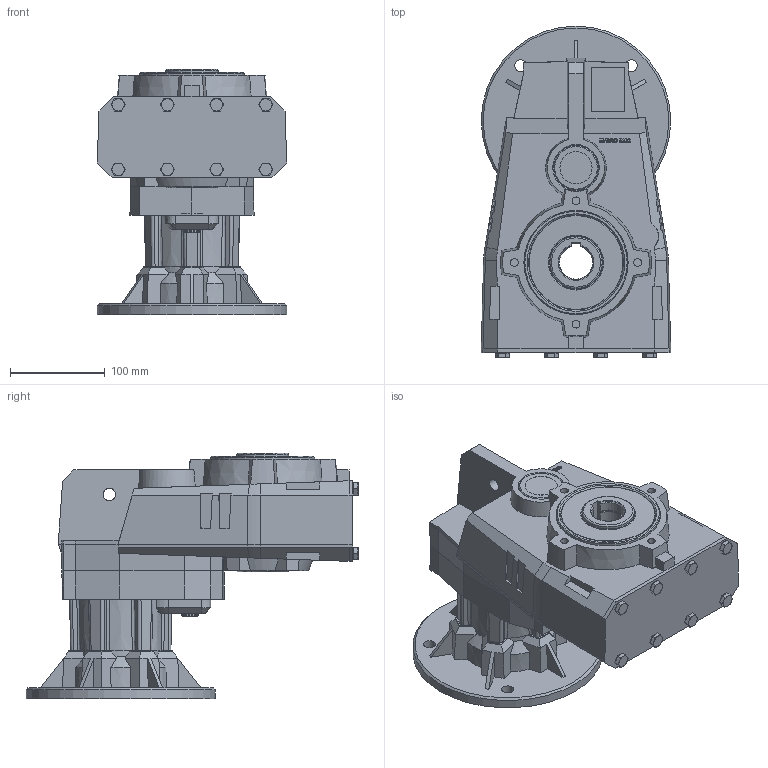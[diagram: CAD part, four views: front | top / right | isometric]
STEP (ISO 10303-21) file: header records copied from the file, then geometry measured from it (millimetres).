
FILE_DESCRIPTION( ( 'Unknown' ), '1' );
FILE_NAME( 'E:/services/configuratordownloads/customers/HYDROMEC/FLACH/download/4D9C7BF8862DA51538C6E82D60D0C6EC/STEP/4D9C7BF8862DA51538C6E82D60D0C6EC.3d.stp', 'Unknown', ( 'Unknown' ), ( 'Unknown' ), 'PSStep 10.1', 'Unknown', ' ' );
FILE_SCHEMA( ( 'AUTOMOTIVE_DESIGN { 1 0 10303 214 1 1 1 1 }' ) );
Length unit declared in the file: millimetre
Products named in the file (10): F508800_ST
Bounding box: 200 x 350.5 x 259 mm (x, y, z)
Volume: 5742947.5 mm3; surface area: 394851.7 mm2
Topology: 10 solids, 42 shells, 1088 faces, 2696 edges, 1743 vertices
Faces by surface type: plane 695, cylinder 172, cone 160, torus 37, bspline 14, extrusion 10
Full cylindrical faces by diameter (mm): 6 x1, 6.647 x40, 8 x8, 8.376 x8, 9 x8, 11.6 x8, 12.5 x4, 13 x15, 13.5 x1, 18 x1, 19 x1, 21 x1, 34 x1, 55 x2, 61 x1, 63 x1, 90 x1, 110 x1, 130 x1, 200 x1
Entity records: 40643 total; most frequent: CARTESIAN_POINT 7414, DIRECTION 4848, ORIENTED_EDGE 4848, EDGE_CURVE 2424, AXIS2_PLACEMENT_3D 1726, VERTEX_POINT 1670, VECTOR 1396, EDGE_LOOP 1390
